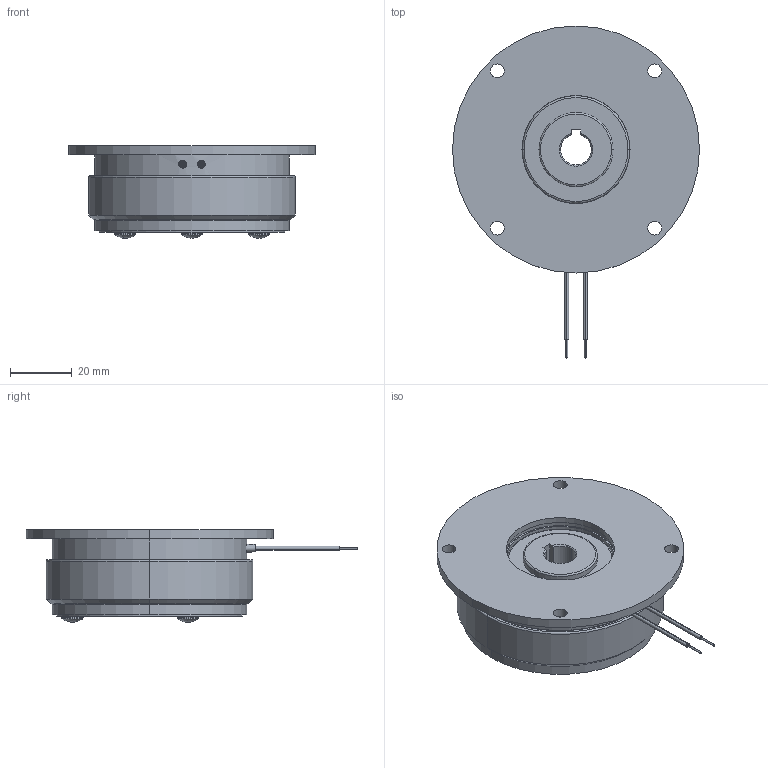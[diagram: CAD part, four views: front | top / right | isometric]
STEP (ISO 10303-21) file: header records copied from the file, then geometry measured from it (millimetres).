
FILE_DESCRIPTION (( 'STEP AP214' ), '1' );
FILE_NAME ('dr_bk_0603-110_mu.STEP', '2021-12-01T08:43:06', ( '' ), ( '' ), 'SwSTEP 2.0', 'SolidWorks 2019', '' );
FILE_SCHEMA (( 'AUTOMOTIVE_DESIGN' ));
Length unit declared in the file: millimetre
Products named in the file (8): 10069112_000; 10068788_000; 10068786_000; 10068785_000; dr_bk_0603-110_mu; 10068789_000_Nietl„nge 2,25mm; 10068787_000; 10069144_000
Assembly tree (11 placements, depth 3):
  dr_bk_0603-110_mu
    10069112_000
    10069144_000
    10068787_000
      10068786_000
      10068785_000
      10068789_000_Nietl„nge 2,25mm  x3
      10068788_000  x3
Bounding box: 80 x 107.5 x 30 mm (x, y, z)
Volume: 85054.4 mm3; surface area: 37704.8 mm2
Topology: 12 solids, 12 shells, 229 faces, 504 edges, 306 vertices
Faces by surface type: cylinder 115, cone 50, plane 34, torus 24, sphere 6
Entity records: 6804 total; most frequent: DIRECTION 1018, CARTESIAN_POINT 988, ORIENTED_EDGE 788, AXIS2_PLACEMENT_3D 442, EDGE_CURVE 394, CIRCLE 248, VERTEX_POINT 246, EDGE_LOOP 236
